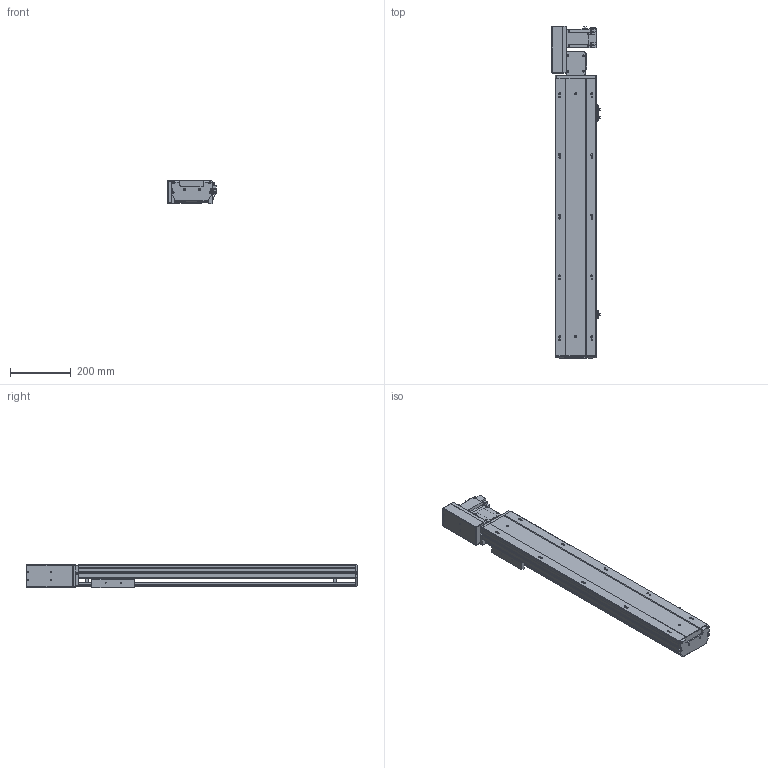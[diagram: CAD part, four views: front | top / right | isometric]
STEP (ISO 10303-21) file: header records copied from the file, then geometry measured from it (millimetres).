
FILE_DESCRIPTION (( 'STEP AP203' ), '1' );
FILE_NAME ('65.STEP', '2022-07-20T11:12:38', ( '' ), ( '' ), 'SwSTEP 2.0', 'SolidWorks 2016', '' );
FILE_SCHEMA (( 'CONFIG_CONTROL_DESIGN' ));
Length unit declared in the file: millimetre
Products named in the file (10): BTB14-L-24; BTB14-L-M40; BTB14-L-01; BTB14-L-23; BTB14-L-菁釱_XD; BTB14-L-06; 65; BTB14-L-04; BTB14-L-HZ; BTB14-L-02
Assembly tree (12 placements, depth 2):
  65
    BTB14-L-菁釱_XD
    BTB14-L-01
    BTB14-L-02
    BTB14-L-04  x3
    BTB14-L-06
    BTB14-L-23  x2
    BTB14-L-24
    BTB14-L-HZ
    BTB14-L-M40
Bounding box: 160.7 x 1093.5 x 78 mm (x, y, z)
Volume: 4867417.4 mm3; surface area: 1047561.7 mm2
Topology: 22 solids, 22 shells, 1594 faces, 4213 edges, 2692 vertices
Faces by surface type: plane 937, cylinder 448, cone 120, bspline 77, torus 12
Entity records: 42198 total; most frequent: CARTESIAN_POINT 10483, ORIENTED_EDGE 6356, DIRECTION 6284, EDGE_CURVE 3178, LINE 2182, VECTOR 2182, VERTEX_POINT 2070, AXIS2_PLACEMENT_3D 2051
